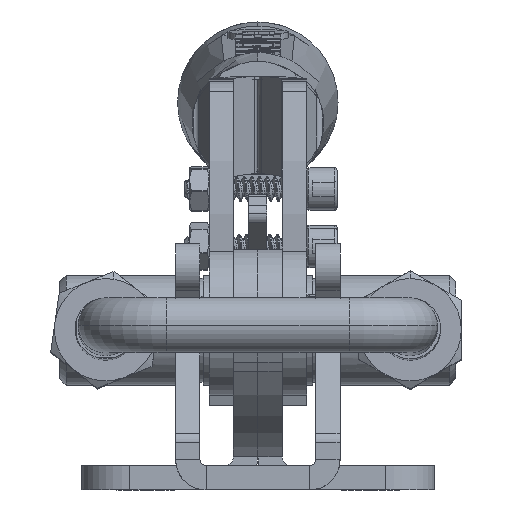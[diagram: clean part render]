
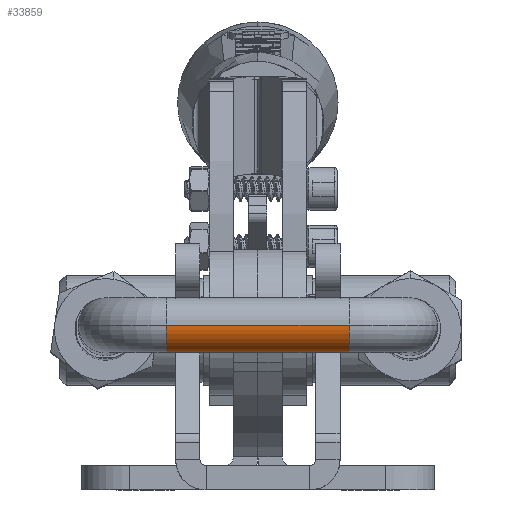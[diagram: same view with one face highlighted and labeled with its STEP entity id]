
A CAD part, left-side view. The second image highlights one B-rep face of the part: STEP entity #33859.
In plain terms, the highlighted cylindrical face has radius 4.5 mm (diameter 9 mm), a partial arc.
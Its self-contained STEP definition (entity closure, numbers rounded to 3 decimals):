
#558 = CARTESIAN_POINT ( 'NONE',  ( 4.5, 0., -15. ) ) ;
#735 = AXIS2_PLACEMENT_3D ( 'NONE', #14400, #26555, #14592 ) ;
#1174 = CARTESIAN_POINT ( 'NONE',  ( 0., 0., -15. ) ) ;
#2610 = AXIS2_PLACEMENT_3D ( 'NONE', #1174, #22239, #19259 ) ;
#2945 = DIRECTION ( 'NONE',  ( 0., 0., 1. ) ) ;
#7000 = ORIENTED_EDGE ( 'NONE', *, *, #26002, .F. ) ;
#7334 = ORIENTED_EDGE ( 'NONE', *, *, #23122, .F. ) ;
#9462 = DIRECTION ( 'NONE',  ( 0., 0., -1. ) ) ;
#11888 = LINE ( 'NONE', #558, #38080 ) ;
#13109 = DIRECTION ( 'NONE',  ( 0., 0., 1. ) ) ;
#14349 = VERTEX_POINT ( 'NONE', #26323 ) ;
#14400 = CARTESIAN_POINT ( 'NONE',  ( 0., 0., 15. ) ) ;
#14592 = DIRECTION ( 'NONE',  ( -1., 0., 0. ) ) ;
#15052 = VERTEX_POINT ( 'NONE', #17688 ) ;
#16269 = FACE_OUTER_BOUND ( 'NONE', #20817, .T. ) ;
#17688 = CARTESIAN_POINT ( 'NONE',  ( 4.5, 0., -15. ) ) ;
#19259 = DIRECTION ( 'NONE',  ( 1., 0., 0. ) ) ;
#20817 = EDGE_LOOP ( 'NONE', ( #7334, #7000, #28066, #24501 ) ) ;
#21754 = VERTEX_POINT ( 'NONE', #23790 ) ;
#21864 = VECTOR ( 'NONE', #13109, 1000. ) ;
#22239 = DIRECTION ( 'NONE',  ( 0., 0., 1. ) ) ;
#23122 = EDGE_CURVE ( 'NONE', #14349, #21754, #28227, .T. ) ;
#23790 = CARTESIAN_POINT ( 'NONE',  ( -4.5, 0., 15. ) ) ;
#23855 = CIRCLE ( 'NONE', #30187, 4.5 ) ;
#24333 = CIRCLE ( 'NONE', #735, 4.5 ) ;
#24501 = ORIENTED_EDGE ( 'NONE', *, *, #32137, .T. ) ;
#25639 = CYLINDRICAL_SURFACE ( 'NONE', #2610, 4.5 ) ;
#26002 = EDGE_CURVE ( 'NONE', #15052, #14349, #23855, .T. ) ;
#26323 = CARTESIAN_POINT ( 'NONE',  ( -4.5, 0., -15. ) ) ;
#26555 = DIRECTION ( 'NONE',  ( 0., 0., -1. ) ) ;
#27169 = DIRECTION ( 'NONE',  ( -1., 0., 0. ) ) ;
#28066 = ORIENTED_EDGE ( 'NONE', *, *, #37439, .T. ) ;
#28227 = LINE ( 'NONE', #34205, #21864 ) ;
#29461 = CARTESIAN_POINT ( 'NONE',  ( 4.5, 0., 15. ) ) ;
#30187 = AXIS2_PLACEMENT_3D ( 'NONE', #36721, #9462, #27169 ) ;
#32137 = EDGE_CURVE ( 'NONE', #38444, #21754, #24333, .T. ) ;
#33859 = ADVANCED_FACE ( 'NONE', ( #16269 ), #25639, .T. ) ;
#34205 = CARTESIAN_POINT ( 'NONE',  ( -4.5, 0., -15. ) ) ;
#36721 = CARTESIAN_POINT ( 'NONE',  ( 0., 0., -15. ) ) ;
#37439 = EDGE_CURVE ( 'NONE', #15052, #38444, #11888, .T. ) ;
#38080 = VECTOR ( 'NONE', #2945, 1000. ) ;
#38444 = VERTEX_POINT ( 'NONE', #29461 ) ;
